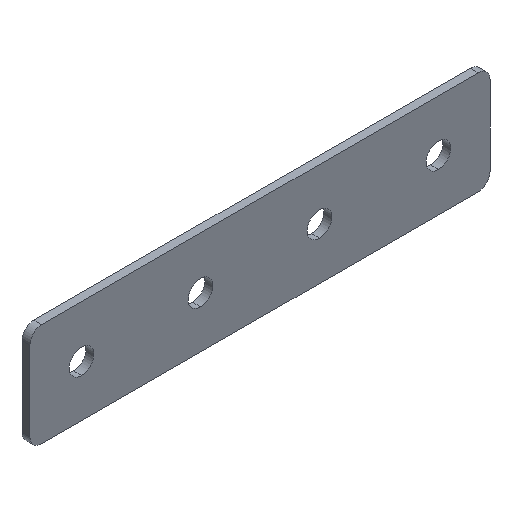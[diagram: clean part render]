
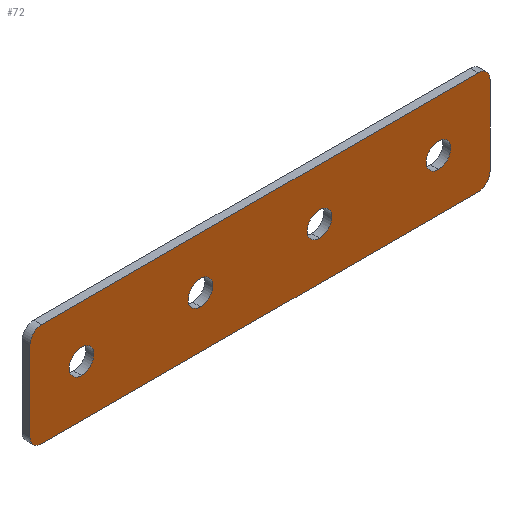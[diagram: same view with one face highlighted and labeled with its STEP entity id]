
A CAD part, isometric view. The second image highlights one B-rep face of the part: STEP entity #72.
In plain terms, the highlighted planar face has unit normal (0, -1, 0).
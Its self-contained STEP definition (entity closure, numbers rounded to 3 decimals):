
#6 = FACE_BOUND ( 'NONE', #204, .T. ) ;
#8 = CARTESIAN_POINT ( 'NONE',  ( 62.865, 0., -2.865 ) ) ;
#9 = EDGE_CURVE ( 'NONE', #542, #61, #104, .T. ) ;
#10 = CARTESIAN_POINT ( 'NONE',  ( 62.865, 0., -2.865 ) ) ;
#11 = CARTESIAN_POINT ( 'NONE',  ( 32.865, 0., -2.865 ) ) ;
#12 = CARTESIAN_POINT ( 'NONE',  ( -7.154, 0., 7.154 ) ) ;
#15 = VERTEX_POINT ( 'NONE', #94 ) ;
#18 = DIRECTION ( 'NONE',  ( 0., 0., -1. ) ) ;
#19 = DIRECTION ( 'NONE',  ( 0., 0., -1. ) ) ;
#29 = CIRCLE ( 'NONE', #363, 2.981 ) ;
#31 = ORIENTED_EDGE ( 'NONE', *, *, #247, .F. ) ;
#32 = DIRECTION ( 'NONE',  ( 0., 1., 0. ) ) ;
#35 = FACE_BOUND ( 'NONE', #473, .T. ) ;
#38 = AXIS2_PLACEMENT_3D ( 'NONE', #12, #117, #529 ) ;
#51 = CARTESIAN_POINT ( 'NONE',  ( 2.865, 0., -5.965 ) ) ;
#54 = CARTESIAN_POINT ( 'NONE',  ( -7.154, 0., -15.865 ) ) ;
#59 = CARTESIAN_POINT ( 'NONE',  ( 62.865, 0., 0.235 ) ) ;
#60 = CARTESIAN_POINT ( 'NONE',  ( 62.865, 0., -5.965 ) ) ;
#61 = VERTEX_POINT ( 'NONE', #163 ) ;
#70 = ORIENTED_EDGE ( 'NONE', *, *, #609, .F. ) ;
#72 = ADVANCED_FACE ( 'NONE', ( #6, #617, #654, #35, #172 ), #477, .F. ) ;
#80 = EDGE_CURVE ( 'NONE', #492, #246, #584, .T. ) ;
#83 = CARTESIAN_POINT ( 'NONE',  ( 32.865, 0., 0.235 ) ) ;
#88 = AXIS2_PLACEMENT_3D ( 'NONE', #656, #32, #240 ) ;
#90 = AXIS2_PLACEMENT_3D ( 'NONE', #97, #407, #148 ) ;
#94 = CARTESIAN_POINT ( 'NONE',  ( 102.885, 0., -15.865 ) ) ;
#97 = CARTESIAN_POINT ( 'NONE',  ( 2.865, 0., -2.865 ) ) ;
#99 = AXIS2_PLACEMENT_3D ( 'NONE', #10, #221, #167 ) ;
#103 = VERTEX_POINT ( 'NONE', #493 ) ;
#104 = CIRCLE ( 'NONE', #90, 3.1 ) ;
#105 = AXIS2_PLACEMENT_3D ( 'NONE', #272, #421, #106 ) ;
#106 = DIRECTION ( 'NONE',  ( 0., 0., -1. ) ) ;
#117 = DIRECTION ( 'NONE',  ( 0., 1., 0. ) ) ;
#118 = CIRCLE ( 'NONE', #298, 3.1 ) ;
#127 = DIRECTION ( 'NONE',  ( 0., 1., 0. ) ) ;
#138 = CARTESIAN_POINT ( 'NONE',  ( 92.865, 0., -5.965 ) ) ;
#143 = ORIENTED_EDGE ( 'NONE', *, *, #9, .T. ) ;
#148 = DIRECTION ( 'NONE',  ( 0., 0., -1. ) ) ;
#149 = VERTEX_POINT ( 'NONE', #60 ) ;
#151 = LINE ( 'NONE', #607, #435 ) ;
#163 = CARTESIAN_POINT ( 'NONE',  ( 2.865, 0., 0.235 ) ) ;
#165 = CIRCLE ( 'NONE', #99, 3.1 ) ;
#167 = DIRECTION ( 'NONE',  ( 0., 0., -1. ) ) ;
#168 = CARTESIAN_POINT ( 'NONE',  ( 2.865, 0., -2.865 ) ) ;
#172 = FACE_OUTER_BOUND ( 'NONE', #549, .T. ) ;
#179 = CIRCLE ( 'NONE', #105, 3.1 ) ;
#182 = VERTEX_POINT ( 'NONE', #441 ) ;
#183 = ORIENTED_EDGE ( 'NONE', *, *, #80, .T. ) ;
#186 = AXIS2_PLACEMENT_3D ( 'NONE', #474, #526, #227 ) ;
#191 = CARTESIAN_POINT ( 'NONE',  ( 102.885, 0., 10.135 ) ) ;
#193 = ORIENTED_EDGE ( 'NONE', *, *, #413, .F. ) ;
#196 = ORIENTED_EDGE ( 'NONE', *, *, #273, .F. ) ;
#204 = EDGE_LOOP ( 'NONE', ( #389, #143 ) ) ;
#210 = CARTESIAN_POINT ( 'NONE',  ( -7.154, 0., -12.885 ) ) ;
#213 = ORIENTED_EDGE ( 'NONE', *, *, #487, .T. ) ;
#217 = DIRECTION ( 'NONE',  ( 0., 0., 1. ) ) ;
#218 = AXIS2_PLACEMENT_3D ( 'NONE', #392, #127, #19 ) ;
#221 = DIRECTION ( 'NONE',  ( 0., 1., 0. ) ) ;
#223 = VERTEX_POINT ( 'NONE', #586 ) ;
#225 = DIRECTION ( 'NONE',  ( 0., 1., 0. ) ) ;
#226 = DIRECTION ( 'NONE',  ( 0., 1., 0. ) ) ;
#227 = DIRECTION ( 'NONE',  ( 0., 0., -1. ) ) ;
#228 = AXIS2_PLACEMENT_3D ( 'NONE', #632, #371, #217 ) ;
#229 = ORIENTED_EDGE ( 'NONE', *, *, #508, .T. ) ;
#238 = CARTESIAN_POINT ( 'NONE',  ( 102.885, 0., 7.154 ) ) ;
#240 = DIRECTION ( 'NONE',  ( 0., 0., 1. ) ) ;
#246 = VERTEX_POINT ( 'NONE', #138 ) ;
#247 = EDGE_CURVE ( 'NONE', #223, #561, #277, .T. ) ;
#252 = CARTESIAN_POINT ( 'NONE',  ( 102.885, 0., -15.865 ) ) ;
#258 = CIRCLE ( 'NONE', #228, 2.981 ) ;
#272 = CARTESIAN_POINT ( 'NONE',  ( 32.865, 0., -2.865 ) ) ;
#273 = EDGE_CURVE ( 'NONE', #581, #223, #151, .T. ) ;
#277 = CIRCLE ( 'NONE', #88, 2.981 ) ;
#278 = VERTEX_POINT ( 'NONE', #83 ) ;
#287 = DIRECTION ( 'NONE',  ( 0., 0., 1. ) ) ;
#290 = LINE ( 'NONE', #429, #393 ) ;
#298 = AXIS2_PLACEMENT_3D ( 'NONE', #168, #226, #386 ) ;
#299 = CIRCLE ( 'NONE', #218, 3.1 ) ;
#302 = EDGE_CURVE ( 'NONE', #103, #620, #290, .T. ) ;
#306 = EDGE_CURVE ( 'NONE', #15, #464, #414, .T. ) ;
#307 = LINE ( 'NONE', #626, #488 ) ;
#308 = ORIENTED_EDGE ( 'NONE', *, *, #458, .F. ) ;
#309 = EDGE_LOOP ( 'NONE', ( #662, #213 ) ) ;
#353 = ORIENTED_EDGE ( 'NONE', *, *, #302, .F. ) ;
#363 = AXIS2_PLACEMENT_3D ( 'NONE', #210, #461, #567 ) ;
#371 = DIRECTION ( 'NONE',  ( 0., 1., 0. ) ) ;
#374 = EDGE_CURVE ( 'NONE', #246, #492, #299, .T. ) ;
#386 = DIRECTION ( 'NONE',  ( 0., 0., -1. ) ) ;
#389 = ORIENTED_EDGE ( 'NONE', *, *, #660, .T. ) ;
#392 = CARTESIAN_POINT ( 'NONE',  ( 92.865, 0., -2.865 ) ) ;
#393 = VECTOR ( 'NONE', #482, 1000. ) ;
#397 = DIRECTION ( 'NONE',  ( 0., 0., 1. ) ) ;
#404 = AXIS2_PLACEMENT_3D ( 'NONE', #11, #422, #644 ) ;
#407 = DIRECTION ( 'NONE',  ( 0., 1., 0. ) ) ;
#413 = EDGE_CURVE ( 'NONE', #562, #103, #648, .T. ) ;
#414 = LINE ( 'NONE', #252, #614 ) ;
#418 = DIRECTION ( 'NONE',  ( 1., 0., 0. ) ) ;
#421 = DIRECTION ( 'NONE',  ( 0., 1., 0. ) ) ;
#422 = DIRECTION ( 'NONE',  ( 0., 1., 0. ) ) ;
#429 = CARTESIAN_POINT ( 'NONE',  ( 105.865, 0., 7.154 ) ) ;
#434 = CIRCLE ( 'NONE', #404, 3.1 ) ;
#435 = VECTOR ( 'NONE', #397, 1000. ) ;
#441 = CARTESIAN_POINT ( 'NONE',  ( 32.865, 0., -5.965 ) ) ;
#451 = AXIS2_PLACEMENT_3D ( 'NONE', #238, #537, #287 ) ;
#458 = EDGE_CURVE ( 'NONE', #620, #15, #258, .T. ) ;
#461 = DIRECTION ( 'NONE',  ( 0., 1., 0. ) ) ;
#464 = VERTEX_POINT ( 'NONE', #54 ) ;
#473 = EDGE_LOOP ( 'NONE', ( #183, #615 ) ) ;
#474 = CARTESIAN_POINT ( 'NONE',  ( 92.865, 0., -2.865 ) ) ;
#477 = PLANE ( 'NONE',  #38 ) ;
#482 = DIRECTION ( 'NONE',  ( 0., 0., -1. ) ) ;
#487 = EDGE_CURVE ( 'NONE', #182, #278, #179, .T. ) ;
#488 = VECTOR ( 'NONE', #418, 1000. ) ;
#492 = VERTEX_POINT ( 'NONE', #577 ) ;
#493 = CARTESIAN_POINT ( 'NONE',  ( 105.865, 0., 7.154 ) ) ;
#496 = DIRECTION ( 'NONE',  ( -1., 0., 0. ) ) ;
#502 = EDGE_CURVE ( 'NONE', #561, #562, #307, .T. ) ;
#507 = ORIENTED_EDGE ( 'NONE', *, *, #502, .F. ) ;
#508 = EDGE_CURVE ( 'NONE', #149, #657, #165, .T. ) ;
#512 = CARTESIAN_POINT ( 'NONE',  ( 105.865, 0., -12.885 ) ) ;
#515 = CARTESIAN_POINT ( 'NONE',  ( -10.135, 0., -12.885 ) ) ;
#516 = AXIS2_PLACEMENT_3D ( 'NONE', #8, #225, #18 ) ;
#526 = DIRECTION ( 'NONE',  ( 0., 1., 0. ) ) ;
#529 = DIRECTION ( 'NONE',  ( 0., 0., 1. ) ) ;
#537 = DIRECTION ( 'NONE',  ( 0., 1., 0. ) ) ;
#542 = VERTEX_POINT ( 'NONE', #51 ) ;
#549 = EDGE_LOOP ( 'NONE', ( #31, #196, #70, #630, #308, #353, #193, #507 ) ) ;
#550 = EDGE_CURVE ( 'NONE', #657, #149, #612, .T. ) ;
#561 = VERTEX_POINT ( 'NONE', #629 ) ;
#562 = VERTEX_POINT ( 'NONE', #191 ) ;
#566 = ORIENTED_EDGE ( 'NONE', *, *, #550, .T. ) ;
#567 = DIRECTION ( 'NONE',  ( 0., 0., 1. ) ) ;
#577 = CARTESIAN_POINT ( 'NONE',  ( 92.865, 0., 0.235 ) ) ;
#581 = VERTEX_POINT ( 'NONE', #515 ) ;
#584 = CIRCLE ( 'NONE', #186, 3.1 ) ;
#586 = CARTESIAN_POINT ( 'NONE',  ( -10.135, 0., 7.154 ) ) ;
#607 = CARTESIAN_POINT ( 'NONE',  ( -10.135, 0., -12.885 ) ) ;
#609 = EDGE_CURVE ( 'NONE', #464, #581, #29, .T. ) ;
#610 = EDGE_LOOP ( 'NONE', ( #566, #229 ) ) ;
#612 = CIRCLE ( 'NONE', #516, 3.1 ) ;
#614 = VECTOR ( 'NONE', #496, 1000. ) ;
#615 = ORIENTED_EDGE ( 'NONE', *, *, #374, .T. ) ;
#617 = FACE_BOUND ( 'NONE', #309, .T. ) ;
#620 = VERTEX_POINT ( 'NONE', #512 ) ;
#626 = CARTESIAN_POINT ( 'NONE',  ( -7.154, 0., 10.135 ) ) ;
#629 = CARTESIAN_POINT ( 'NONE',  ( -7.154, 0., 10.135 ) ) ;
#630 = ORIENTED_EDGE ( 'NONE', *, *, #306, .F. ) ;
#632 = CARTESIAN_POINT ( 'NONE',  ( 102.885, 0., -12.885 ) ) ;
#644 = DIRECTION ( 'NONE',  ( 0., 0., -1. ) ) ;
#648 = CIRCLE ( 'NONE', #451, 2.981 ) ;
#654 = FACE_BOUND ( 'NONE', #610, .T. ) ;
#656 = CARTESIAN_POINT ( 'NONE',  ( -7.154, 0., 7.154 ) ) ;
#657 = VERTEX_POINT ( 'NONE', #59 ) ;
#660 = EDGE_CURVE ( 'NONE', #61, #542, #118, .T. ) ;
#662 = ORIENTED_EDGE ( 'NONE', *, *, #670, .T. ) ;
#670 = EDGE_CURVE ( 'NONE', #278, #182, #434, .T. ) ;
